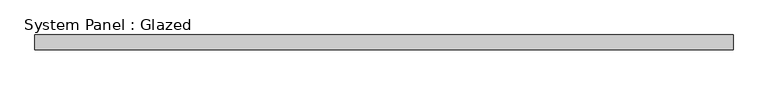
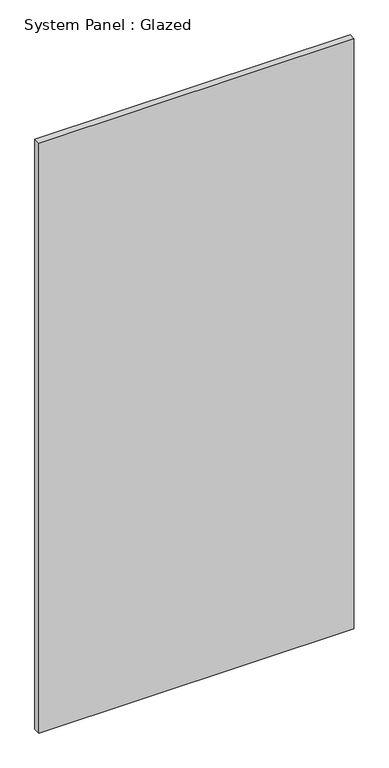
"""IFC4 building model written with IfcOpenShell, lengths in millimetres: plate geometry, System Panel : Glazed."""

from ifc_helpers import new_model, si_unit, origin, origin_with_axes, place, context, project, spatial, polyline, outline, extrude, source, transform, mapped, element, save


def system_panel_glazed_27a92b33(model_context):
    return source(origin(), model_context, "Body", "SweptSolid", [
        extrude(outline(polyline([(600.075, 19.05), (-600.075, 19.05), (-600.075, 44.45), (600.075, 44.45), (600.075, 19.05)])), origin_with_axes(), (0.0, 0.0, 1.0), 2374.9),
    ])


if __name__ == "__main__":
    model = new_model("IFC4")
    model_context = context("Model", 3, world=origin())
    ifc_project = project(units=[si_unit("LENGTHUNIT", "METRE", prefix="MILLI")], contexts=[model_context])
    site = spatial("IfcSite", under=ifc_project)
    building = spatial("IfcBuilding", under=site)
    placement = place(None, origin())
    system_panel_glazed_shape = system_panel_glazed_27a92b33(model_context)
    element("IfcPlate", 1, ObjectType="System Panel : Glazed", at=placement, inside=building, context=model_context, shape_type="MappedRepresentation", body=[
        mapped(system_panel_glazed_shape, transform((0.0, 0.0, 0.0), x_axis=(1.0, 0.0, 0.0), y_axis=(0.0, 1.0, 0.0), z_axis=(0.0, 0.0, 1.0))),
    ])
    save(model, "model.ifc")
